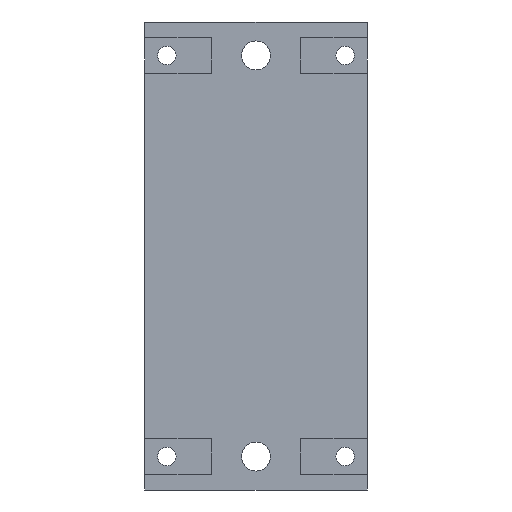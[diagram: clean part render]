
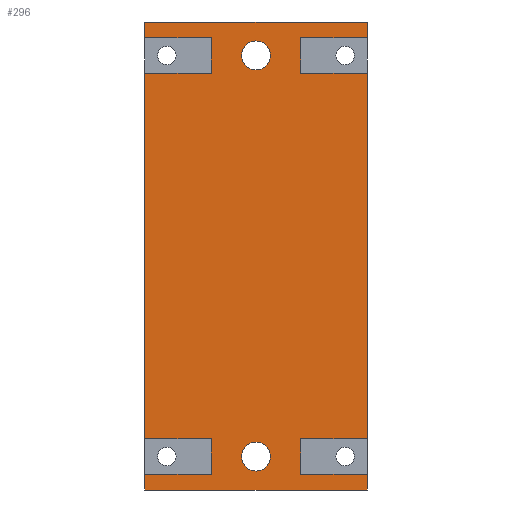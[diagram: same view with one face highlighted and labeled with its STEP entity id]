
A CAD part, front view. The second image highlights one B-rep face of the part: STEP entity #296.
In plain terms, the highlighted planar face has unit normal (0, -1, 0).
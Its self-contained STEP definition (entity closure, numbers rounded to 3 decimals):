
#296=ADVANCED_FACE('',(#580,#582,#584),#586,.F.);
#580=FACE_BOUND('',#581,.T.);
#581=EDGE_LOOP('',(#767,#768,#769,#770,#771,#772,#773,#774,#775,#776,#777,#778,#779,
#780,#781,#782,#783,#784,#785,#786));
#582=FACE_BOUND('',#583,.T.);
#583=EDGE_LOOP('',(#787));
#584=FACE_BOUND('',#585,.T.);
#585=EDGE_LOOP('',(#788));
#586=PLANE('',#587);
#587=AXIS2_PLACEMENT_3D('',#588,#589,#590);
#588=CARTESIAN_POINT('',(0.,0.,0.));
#589=DIRECTION('',(0.,1.,0.));
#590=DIRECTION('',(1.,0.,0.));
#767=ORIENTED_EDGE('',*,*,#878,.F.);
#768=ORIENTED_EDGE('',*,*,#858,.F.);
#769=ORIENTED_EDGE('',*,*,#856,.F.);
#770=ORIENTED_EDGE('',*,*,#845,.F.);
#771=ORIENTED_EDGE('',*,*,#838,.F.);
#772=ORIENTED_EDGE('',*,*,#835,.F.);
#773=ORIENTED_EDGE('',*,*,#848,.F.);
#774=ORIENTED_EDGE('',*,*,#843,.F.);
#775=ORIENTED_EDGE('',*,*,#852,.F.);
#776=ORIENTED_EDGE('',*,*,#849,.F.);
#777=ORIENTED_EDGE('',*,*,#853,.F.);
#778=ORIENTED_EDGE('',*,*,#840,.F.);
#779=ORIENTED_EDGE('',*,*,#854,.F.);
#780=ORIENTED_EDGE('',*,*,#864,.F.);
#781=ORIENTED_EDGE('',*,*,#872,.F.);
#782=ORIENTED_EDGE('',*,*,#869,.F.);
#783=ORIENTED_EDGE('',*,*,#873,.F.);
#784=ORIENTED_EDGE('',*,*,#861,.F.);
#785=ORIENTED_EDGE('',*,*,#877,.F.);
#786=ORIENTED_EDGE('',*,*,#874,.F.);
#787=ORIENTED_EDGE('',*,*,#868,.T.);
#788=ORIENTED_EDGE('',*,*,#866,.T.);
#835=EDGE_CURVE('',#947,#948,#949,.T.);
#838=EDGE_CURVE('',#948,#952,#953,.F.);
#840=EDGE_CURVE('',#955,#956,#957,.T.);
#843=EDGE_CURVE('',#959,#961,#962,.T.);
#845=EDGE_CURVE('',#952,#964,#965,.T.);
#848=EDGE_CURVE('',#961,#947,#968,.F.);
#849=EDGE_CURVE('',#969,#970,#971,.T.);
#852=EDGE_CURVE('',#970,#959,#974,.F.);
#853=EDGE_CURVE('',#956,#969,#975,.F.);
#854=EDGE_CURVE('',#976,#955,#977,.T.);
#856=EDGE_CURVE('',#964,#979,#980,.T.);
#858=EDGE_CURVE('',#979,#982,#983,.T.);
#861=EDGE_CURVE('',#985,#987,#988,.T.);
#864=EDGE_CURVE('',#990,#976,#992,.T.);
#866=EDGE_CURVE('',#995,#995,#996,.T.);
#868=EDGE_CURVE('',#999,#999,#1000,.T.);
#869=EDGE_CURVE('',#1001,#1002,#1003,.T.);
#872=EDGE_CURVE('',#1002,#990,#1006,.F.);
#873=EDGE_CURVE('',#987,#1001,#1007,.F.);
#874=EDGE_CURVE('',#1008,#1009,#1010,.T.);
#877=EDGE_CURVE('',#1009,#985,#1013,.F.);
#878=EDGE_CURVE('',#982,#1008,#1014,.F.);
#947=VERTEX_POINT('',#1165);
#948=VERTEX_POINT('',#1166);
#949=LINE('',#1167,#1168);
#952=VERTEX_POINT('',#1176);
#953=LINE('',#1177,#1178);
#955=VERTEX_POINT('',#1183);
#956=VERTEX_POINT('',#1184);
#957=LINE('',#1185,#1186);
#959=VERTEX_POINT('',#1191);
#961=VERTEX_POINT('',#1195);
#962=LINE('',#1196,#1197);
#964=VERTEX_POINT('',#1202);
#965=LINE('',#1203,#1204);
#968=LINE('',#1212,#1213);
#969=VERTEX_POINT('',#1215);
#970=VERTEX_POINT('',#1216);
#971=LINE('',#1217,#1218);
#974=LINE('',#1226,#1227);
#975=LINE('',#1229,#1230);
#976=VERTEX_POINT('',#1232);
#977=LINE('',#1233,#1234);
#979=VERTEX_POINT('',#1239);
#980=LINE('',#1240,#1241);
#982=VERTEX_POINT('',#1246);
#983=LINE('',#1247,#1248);
#985=VERTEX_POINT('',#1253);
#987=VERTEX_POINT('',#1257);
#988=LINE('',#1258,#1259);
#990=VERTEX_POINT('',#1264);
#992=LINE('',#1268,#1269);
#995=VERTEX_POINT('',#1276);
#996=CIRCLE('',#1277,3.25);
#999=VERTEX_POINT('',#1286);
#1000=CIRCLE('',#1287,3.25);
#1001=VERTEX_POINT('',#1291);
#1002=VERTEX_POINT('',#1292);
#1003=LINE('',#1293,#1294);
#1006=LINE('',#1302,#1303);
#1007=LINE('',#1305,#1306);
#1008=VERTEX_POINT('',#1308);
#1009=VERTEX_POINT('',#1309);
#1010=LINE('',#1310,#1311);
#1013=LINE('',#1319,#1320);
#1014=LINE('',#1322,#1323);
#1165=CARTESIAN_POINT('',(10.,0.,41.));
#1166=CARTESIAN_POINT('',(10.,0.,49.));
#1167=CARTESIAN_POINT('',(10.,0.,41.));
#1168=VECTOR('',#1169,1.);
#1169=DIRECTION('',(0.,0.,1.));
#1176=CARTESIAN_POINT('',(-5.,0.,49.));
#1177=CARTESIAN_POINT('',(-5.,0.,49.));
#1178=VECTOR('',#1179,1.);
#1179=DIRECTION('',(1.,0.,0.));
#1183=CARTESIAN_POINT('',(-5.,0.,-52.5));
#1184=CARTESIAN_POINT('',(-5.,0.,-49.));
#1185=CARTESIAN_POINT('',(-5.,0.,-52.5));
#1186=VECTOR('',#1187,1.);
#1187=DIRECTION('',(0.,0.,1.));
#1191=CARTESIAN_POINT('',(-5.,0.,-41.));
#1195=CARTESIAN_POINT('',(-5.,0.,41.));
#1196=CARTESIAN_POINT('',(-5.,0.,-41.));
#1197=VECTOR('',#1198,1.);
#1198=DIRECTION('',(0.,0.,1.));
#1202=CARTESIAN_POINT('',(-5.,0.,52.5));
#1203=CARTESIAN_POINT('',(-5.,0.,49.));
#1204=VECTOR('',#1205,1.);
#1205=DIRECTION('',(0.,0.,1.));
#1212=CARTESIAN_POINT('',(10.,0.,41.));
#1213=VECTOR('',#1214,1.);
#1214=DIRECTION('',(-1.,0.,0.));
#1215=CARTESIAN_POINT('',(10.,0.,-49.));
#1216=CARTESIAN_POINT('',(10.,0.,-41.));
#1217=CARTESIAN_POINT('',(10.,0.,-49.));
#1218=VECTOR('',#1219,1.);
#1219=DIRECTION('',(0.,0.,1.));
#1226=CARTESIAN_POINT('',(-5.,0.,-41.));
#1227=VECTOR('',#1228,1.);
#1228=DIRECTION('',(1.,0.,0.));
#1229=CARTESIAN_POINT('',(10.,0.,-49.));
#1230=VECTOR('',#1231,1.);
#1231=DIRECTION('',(-1.,0.,0.));
#1232=CARTESIAN_POINT('',(45.,0.,-52.5));
#1233=CARTESIAN_POINT('',(45.,0.,-52.5));
#1234=VECTOR('',#1235,1.);
#1235=DIRECTION('',(-1.,0.,0.));
#1239=CARTESIAN_POINT('',(45.,0.,52.5));
#1240=CARTESIAN_POINT('',(-5.,0.,52.5));
#1241=VECTOR('',#1242,1.);
#1242=DIRECTION('',(1.,0.,0.));
#1246=CARTESIAN_POINT('',(45.,0.,49.));
#1247=CARTESIAN_POINT('',(45.,0.,52.5));
#1248=VECTOR('',#1249,1.);
#1249=DIRECTION('',(0.,0.,-1.));
#1253=CARTESIAN_POINT('',(45.,0.,41.));
#1257=CARTESIAN_POINT('',(45.,0.,-41.));
#1258=CARTESIAN_POINT('',(45.,0.,41.));
#1259=VECTOR('',#1260,1.);
#1260=DIRECTION('',(0.,0.,-1.));
#1264=CARTESIAN_POINT('',(45.,0.,-49.));
#1268=CARTESIAN_POINT('',(45.,0.,-49.));
#1269=VECTOR('',#1270,1.);
#1270=DIRECTION('',(0.,0.,-1.));
#1276=CARTESIAN_POINT('',(23.25,0.,-45.));
#1277=AXIS2_PLACEMENT_3D('',#1278,#1279,#1280);
#1278=CARTESIAN_POINT('',(20.,0.,-45.));
#1279=DIRECTION('',(0.,1.,0.));
#1280=DIRECTION('',(1.,0.,0.));
#1286=CARTESIAN_POINT('',(23.25,0.,45.));
#1287=AXIS2_PLACEMENT_3D('',#1288,#1289,#1290);
#1288=CARTESIAN_POINT('',(20.,0.,45.));
#1289=DIRECTION('',(0.,1.,0.));
#1290=DIRECTION('',(1.,0.,0.));
#1291=CARTESIAN_POINT('',(30.,0.,-41.));
#1292=CARTESIAN_POINT('',(30.,0.,-49.));
#1293=CARTESIAN_POINT('',(30.,0.,-41.));
#1294=VECTOR('',#1295,1.);
#1295=DIRECTION('',(0.,0.,-1.));
#1302=CARTESIAN_POINT('',(45.,0.,-49.));
#1303=VECTOR('',#1304,1.);
#1304=DIRECTION('',(-1.,0.,0.));
#1305=CARTESIAN_POINT('',(30.,0.,-41.));
#1306=VECTOR('',#1307,1.);
#1307=DIRECTION('',(1.,0.,0.));
#1308=CARTESIAN_POINT('',(30.,0.,49.));
#1309=CARTESIAN_POINT('',(30.,0.,41.));
#1310=CARTESIAN_POINT('',(30.,0.,49.));
#1311=VECTOR('',#1312,1.);
#1312=DIRECTION('',(0.,0.,-1.));
#1319=CARTESIAN_POINT('',(45.,0.,41.));
#1320=VECTOR('',#1321,1.);
#1321=DIRECTION('',(-1.,0.,0.));
#1322=CARTESIAN_POINT('',(30.,0.,49.));
#1323=VECTOR('',#1324,1.);
#1324=DIRECTION('',(1.,0.,0.));
